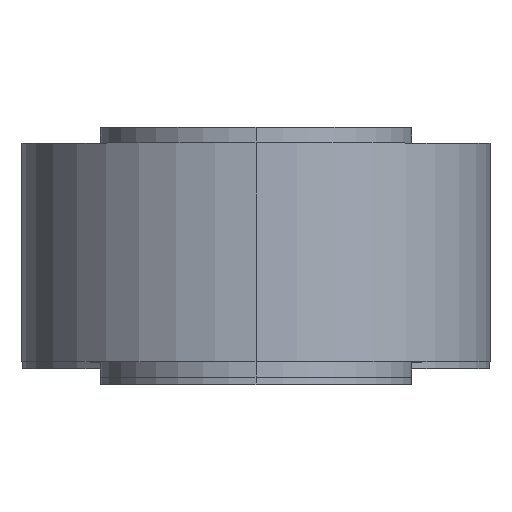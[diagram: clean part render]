
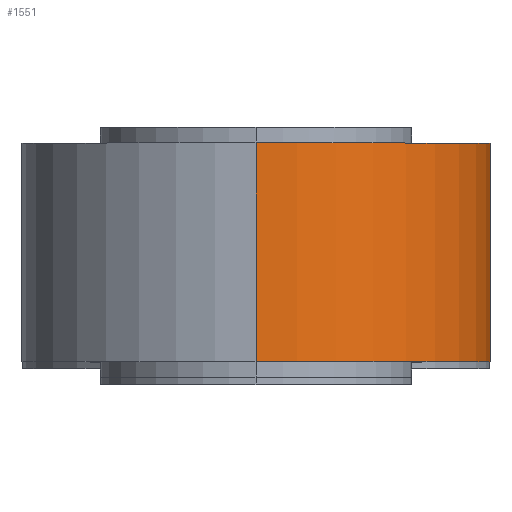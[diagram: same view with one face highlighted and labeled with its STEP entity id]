
A CAD part, top view. The second image highlights one B-rep face of the part: STEP entity #1551.
In plain terms, the highlighted cylindrical face has radius 75 mm (diameter 150 mm), a partial arc.
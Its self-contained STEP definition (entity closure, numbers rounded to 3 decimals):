
#9 = VERTEX_POINT ( 'NONE', #2059 ) ;
#41 = DIRECTION ( 'NONE',  ( 0., 0., -1. ) ) ;
#81 = CARTESIAN_POINT ( 'NONE',  ( -200., 27.5, 2019.5 ) ) ;
#90 = ORIENTED_EDGE ( 'NONE', *, *, #1893, .T. ) ;
#94 = DIRECTION ( 'NONE',  ( 0., -1., 0. ) ) ;
#102 = CARTESIAN_POINT ( 'NONE',  ( -200., -43.27, 2019.5 ) ) ;
#106 = EDGE_CURVE ( 'NONE', #264, #2036, #850, .T. ) ;
#143 = ORIENTED_EDGE ( 'NONE', *, *, #1363, .F. ) ;
#189 = CYLINDRICAL_SURFACE ( 'NONE', #1338, 75. ) ;
#194 = VERTEX_POINT ( 'NONE', #370 ) ;
#239 = AXIS2_PLACEMENT_3D ( 'NONE', #535, #870, #1042 ) ;
#240 = ORIENTED_EDGE ( 'NONE', *, *, #539, .T. ) ;
#261 = VERTEX_POINT ( 'NONE', #2003 ) ;
#264 = VERTEX_POINT ( 'NONE', #1686 ) ;
#265 = ORIENTED_EDGE ( 'NONE', *, *, #1571, .T. ) ;
#341 = LINE ( 'NONE', #102, #466 ) ;
#370 = CARTESIAN_POINT ( 'NONE',  ( -200., -35., 2169.5 ) ) ;
#452 = DIRECTION ( 'NONE',  ( 0., -1., 0. ) ) ;
#461 = VERTEX_POINT ( 'NONE', #1428 ) ;
#466 = VECTOR ( 'NONE', #94, 1000. ) ;
#476 = AXIS2_PLACEMENT_3D ( 'NONE', #1115, #701, #41 ) ;
#529 = VECTOR ( 'NONE', #1341, 1000. ) ;
#534 = CARTESIAN_POINT ( 'NONE',  ( -156., -43.27, 2033.763 ) ) ;
#535 = CARTESIAN_POINT ( 'NONE',  ( -200., -35., 2094.5 ) ) ;
#539 = EDGE_CURVE ( 'NONE', #2036, #752, #621, .T. ) ;
#599 = ORIENTED_EDGE ( 'NONE', *, *, #802, .T. ) ;
#621 = CIRCLE ( 'NONE', #476, 75. ) ;
#640 = AXIS2_PLACEMENT_3D ( 'NONE', #1369, #1538, #1382 ) ;
#671 = ORIENTED_EDGE ( 'NONE', *, *, #1184, .F. ) ;
#687 = EDGE_LOOP ( 'NONE', ( #265, #599, #90, #143, #1254, #1351, #240, #671 ) ) ;
#701 = DIRECTION ( 'NONE',  ( 0., 1., 0. ) ) ;
#752 = VERTEX_POINT ( 'NONE', #81 ) ;
#784 = DIRECTION ( 'NONE',  ( 0., -1., 0. ) ) ;
#802 = EDGE_CURVE ( 'NONE', #261, #194, #1472, .T. ) ;
#850 = LINE ( 'NONE', #534, #529 ) ;
#870 = DIRECTION ( 'NONE',  ( 0., 1., 0. ) ) ;
#887 = FACE_OUTER_BOUND ( 'NONE', #687, .T. ) ;
#905 = CIRCLE ( 'NONE', #239, 75. ) ;
#933 = CARTESIAN_POINT ( 'NONE',  ( -200., -43.27, 2094.5 ) ) ;
#938 = CIRCLE ( 'NONE', #1550, 75. ) ;
#1042 = DIRECTION ( 'NONE',  ( 0., 0., -1. ) ) ;
#1074 = VECTOR ( 'NONE', #1461, 1000. ) ;
#1115 = CARTESIAN_POINT ( 'NONE',  ( -200., 27.5, 2094.5 ) ) ;
#1133 = DIRECTION ( 'NONE',  ( 0., 0., -1. ) ) ;
#1182 = CIRCLE ( 'NONE', #640, 75. ) ;
#1184 = EDGE_CURVE ( 'NONE', #461, #752, #1491, .T. ) ;
#1254 = ORIENTED_EDGE ( 'NONE', *, *, #1931, .T. ) ;
#1303 = VECTOR ( 'NONE', #452, 1000. ) ;
#1338 = AXIS2_PLACEMENT_3D ( 'NONE', #933, #1708, #1875 ) ;
#1341 = DIRECTION ( 'NONE',  ( 0., 1., 0. ) ) ;
#1351 = ORIENTED_EDGE ( 'NONE', *, *, #106, .T. ) ;
#1363 = EDGE_CURVE ( 'NONE', #1890, #9, #341, .T. ) ;
#1369 = CARTESIAN_POINT ( 'NONE',  ( -200., -27.5, 2094.5 ) ) ;
#1382 = DIRECTION ( 'NONE',  ( 0., 0., -1. ) ) ;
#1413 = CARTESIAN_POINT ( 'NONE',  ( -200., -43.27, 2169.5 ) ) ;
#1428 = CARTESIAN_POINT ( 'NONE',  ( -200., 35., 2019.5 ) ) ;
#1461 = DIRECTION ( 'NONE',  ( 0., -1., 0. ) ) ;
#1472 = LINE ( 'NONE', #1413, #1303 ) ;
#1491 = LINE ( 'NONE', #1621, #1074 ) ;
#1538 = DIRECTION ( 'NONE',  ( 0., -1., 0. ) ) ;
#1550 = AXIS2_PLACEMENT_3D ( 'NONE', #1935, #784, #1133 ) ;
#1551 = ADVANCED_FACE ( 'NONE', ( #887 ), #189, .T. ) ;
#1571 = EDGE_CURVE ( 'NONE', #461, #261, #938, .T. ) ;
#1621 = CARTESIAN_POINT ( 'NONE',  ( -200., -43.27, 2019.5 ) ) ;
#1636 = CARTESIAN_POINT ( 'NONE',  ( -200., -27.5, 2019.5 ) ) ;
#1686 = CARTESIAN_POINT ( 'NONE',  ( -156., -27.5, 2033.763 ) ) ;
#1708 = DIRECTION ( 'NONE',  ( 0., -1., 0. ) ) ;
#1875 = DIRECTION ( 'NONE',  ( 0., 0., -1. ) ) ;
#1890 = VERTEX_POINT ( 'NONE', #1636 ) ;
#1893 = EDGE_CURVE ( 'NONE', #194, #9, #905, .T. ) ;
#1931 = EDGE_CURVE ( 'NONE', #1890, #264, #1182, .T. ) ;
#1935 = CARTESIAN_POINT ( 'NONE',  ( -200., 35., 2094.5 ) ) ;
#1966 = CARTESIAN_POINT ( 'NONE',  ( -156., 27.5, 2033.763 ) ) ;
#2003 = CARTESIAN_POINT ( 'NONE',  ( -200., 35., 2169.5 ) ) ;
#2036 = VERTEX_POINT ( 'NONE', #1966 ) ;
#2059 = CARTESIAN_POINT ( 'NONE',  ( -200., -35., 2019.5 ) ) ;
